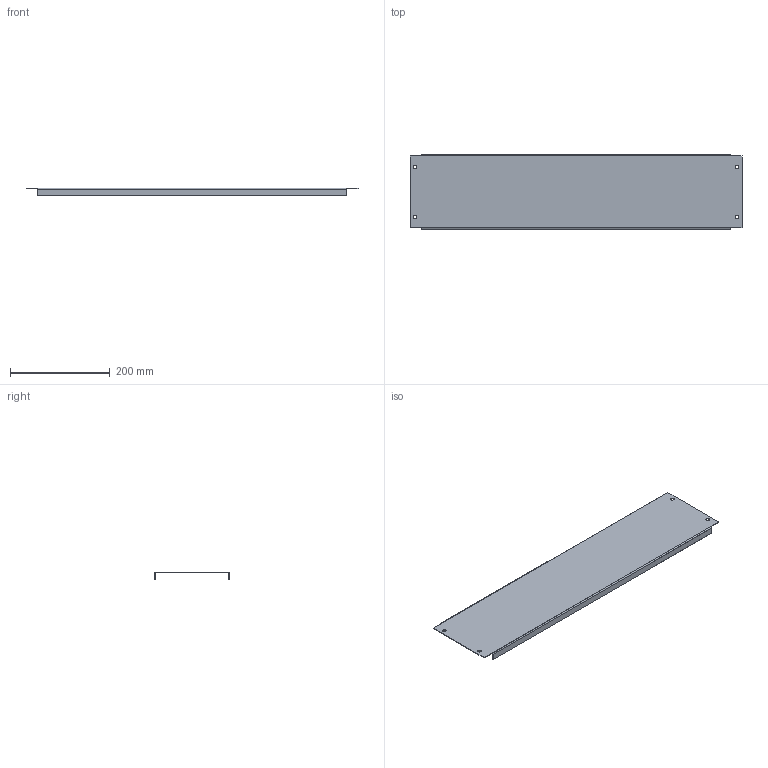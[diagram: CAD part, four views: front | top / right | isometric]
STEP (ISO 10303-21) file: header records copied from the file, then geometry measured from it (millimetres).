
FILE_DESCRIPTION (( 'STEP AP203' ), '1' );
FILE_NAME ('MB 15.70 Ïàíåëü ìîäóëüíàÿ.STEP', '2012-11-21T07:10:15', ( 'system' ), ( '' ), 'SwSTEP 2.0', 'SolidWorks 2012', '' );
FILE_SCHEMA (( 'CONFIG_CONTROL_DESIGN' ));
Length unit declared in the file: millimetre
Products named in the file (1): MB 15.70 Ïàíåëü ìîäóëüíàÿ
Bounding box: 665 x 149 x 15 mm (x, y, z)
Volume: 137805.9 mm3; surface area: 231798.1 mm2
Topology: 1 solids, 1 shells, 34 faces, 80 edges, 48 vertices
Faces by surface type: plane 22, cylinder 12
Entity records: 1053 total; most frequent: DIRECTION 174, CARTESIAN_POINT 163, ORIENTED_EDGE 160, EDGE_CURVE 80, AXIS2_PLACEMENT_3D 59, LINE 56, VECTOR 56, VERTEX_POINT 48
